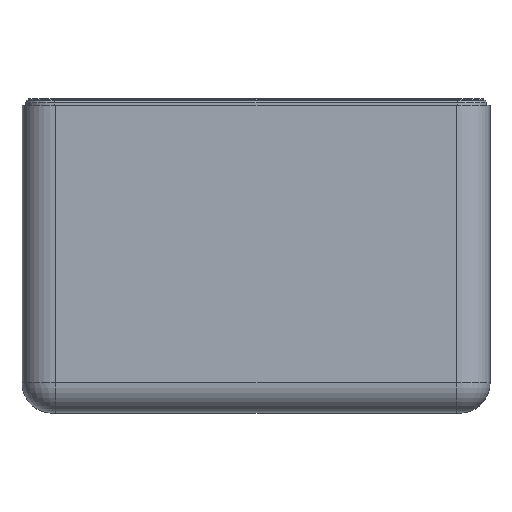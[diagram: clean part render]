
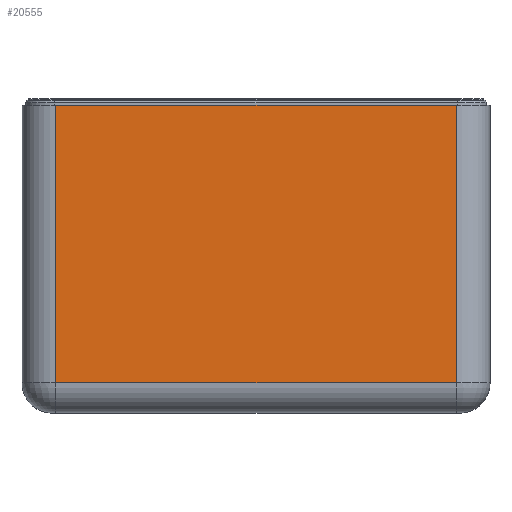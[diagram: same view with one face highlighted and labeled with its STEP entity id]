
A CAD part, top view. The second image highlights one B-rep face of the part: STEP entity #20555.
In plain terms, the highlighted planar face has unit normal (0, 0, 1).
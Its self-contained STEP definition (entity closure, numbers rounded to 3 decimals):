
#487 = VERTEX_POINT ( 'NONE', #39866 ) ;
#3758 = LINE ( 'NONE', #40799, #26759 ) ;
#5086 = DIRECTION ( 'NONE',  ( 1., 0., 0. ) ) ;
#5428 = CARTESIAN_POINT ( 'NONE',  ( -6.682, -10.263, 3.848 ) ) ;
#10956 = CARTESIAN_POINT ( 'NONE',  ( 6.682, 0., 3.848 ) ) ;
#12752 = CARTESIAN_POINT ( 'NONE',  ( -6.682, 0., 3.848 ) ) ;
#13002 = LINE ( 'NONE', #33948, #28138 ) ;
#13547 = ORIENTED_EDGE ( 'NONE', *, *, #38266, .F. ) ;
#19509 = DIRECTION ( 'NONE',  ( 1., 0., 0. ) ) ;
#20555 = ADVANCED_FACE ( 'NONE', ( #26681 ), #31169, .T. ) ;
#20875 = EDGE_CURVE ( 'NONE', #23715, #40458, #62650, .T. ) ;
#21091 = DIRECTION ( 'NONE',  ( 0., 1., 0. ) ) ;
#21585 = VECTOR ( 'NONE', #21091, 39.37 ) ;
#23715 = VERTEX_POINT ( 'NONE', #26770 ) ;
#26681 = FACE_OUTER_BOUND ( 'NONE', #66339, .T. ) ;
#26759 = VECTOR ( 'NONE', #19509, 39.37 ) ;
#26770 = CARTESIAN_POINT ( 'NONE',  ( -6.682, -9.26, 3.848 ) ) ;
#27104 = AXIS2_PLACEMENT_3D ( 'NONE', #5428, #37326, #5086 ) ;
#28138 = VECTOR ( 'NONE', #54888, 39.37 ) ;
#31169 = PLANE ( 'NONE',  #27104 ) ;
#33948 = CARTESIAN_POINT ( 'NONE',  ( 6.682, -10.263, 3.848 ) ) ;
#37326 = DIRECTION ( 'NONE',  ( 0., 0., 1. ) ) ;
#38266 = EDGE_CURVE ( 'NONE', #40458, #63607, #50316, .T. ) ;
#39866 = CARTESIAN_POINT ( 'NONE',  ( 6.682, -9.26, 3.848 ) ) ;
#40458 = VERTEX_POINT ( 'NONE', #12752 ) ;
#40799 = CARTESIAN_POINT ( 'NONE',  ( -6.682, -9.26, 3.848 ) ) ;
#43800 = CARTESIAN_POINT ( 'NONE',  ( 0., 0., 3.848 ) ) ;
#44901 = VECTOR ( 'NONE', #49315, 39.37 ) ;
#47409 = ORIENTED_EDGE ( 'NONE', *, *, #20875, .F. ) ;
#49315 = DIRECTION ( 'NONE',  ( 1., 0., 0. ) ) ;
#50316 = LINE ( 'NONE', #43800, #44901 ) ;
#52699 = CARTESIAN_POINT ( 'NONE',  ( -6.682, -10.263, 3.848 ) ) ;
#53751 = EDGE_CURVE ( 'NONE', #23715, #487, #3758, .T. ) ;
#54888 = DIRECTION ( 'NONE',  ( 0., 1., 0. ) ) ;
#58413 = EDGE_CURVE ( 'NONE', #487, #63607, #13002, .T. ) ;
#62650 = LINE ( 'NONE', #52699, #21585 ) ;
#63607 = VERTEX_POINT ( 'NONE', #10956 ) ;
#66213 = ORIENTED_EDGE ( 'NONE', *, *, #53751, .T. ) ;
#66278 = ORIENTED_EDGE ( 'NONE', *, *, #58413, .T. ) ;
#66339 = EDGE_LOOP ( 'NONE', ( #47409, #66213, #66278, #13547 ) ) ;
